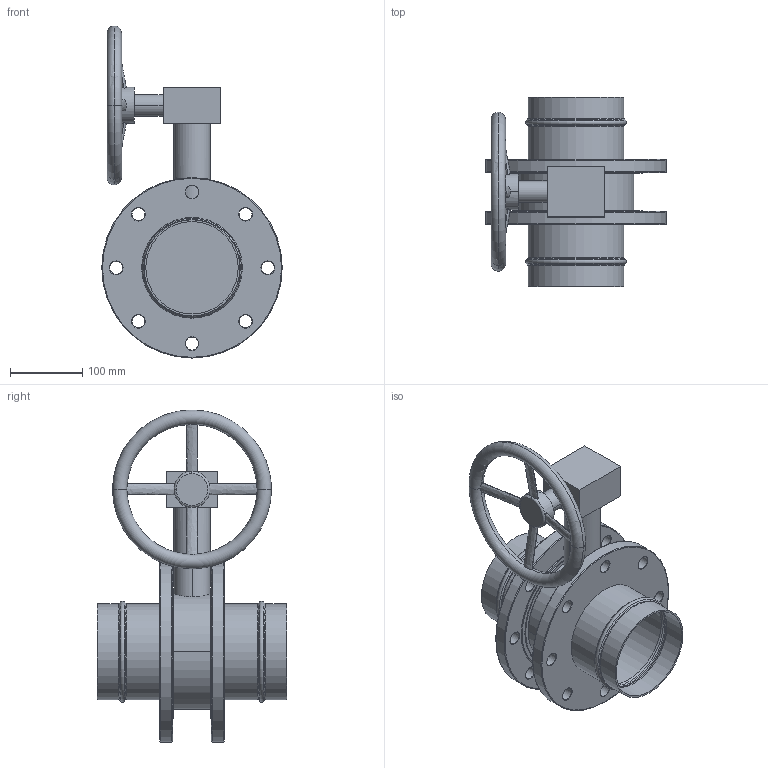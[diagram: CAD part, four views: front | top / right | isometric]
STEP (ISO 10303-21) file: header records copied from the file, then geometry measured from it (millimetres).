
FILE_DESCRIPTION(/* description */ (''),/* implementation_level */ '2;1');
FILE_NAME(/* name */ '50151090103.stp',/* time_stamp */ '2020-06-22T14:21:35+08:00',/* author */ (''),/* organization */ (''),/* preprocessor_version */ 'ST-DEVELOPER v11',/* originating_system */ 'SIEMENS PLM Software NX 7.5',/* authorisation */ '');
FILE_SCHEMA (('CONFIG_CONTROL_DESIGN'));
Length unit declared in the file: millimetre
Products named in the file (1): Admi4F60b413
Bounding box: 250 x 262 x 460 mm (x, y, z)
Volume: 3285147.5 mm3; surface area: 507338.1 mm2
Topology: 3 solids, 3 shells, 150 faces, 370 edges, 232 vertices
Faces by surface type: cone 52, cylinder 34, torus 32, plane 24, extrusion 8
Full cylindrical faces by diameter (mm): 18 x16, 128 x4, 133 x4, 250 x2
Entity records: 4230 total; most frequent: CARTESIAN_POINT 963, DIRECTION 682, ORIENTED_EDGE 500, AXIS2_PLACEMENT_3D 323, EDGE_LOOP 304, FACE_BOUND 276, EDGE_CURVE 250, VERTEX_POINT 216
